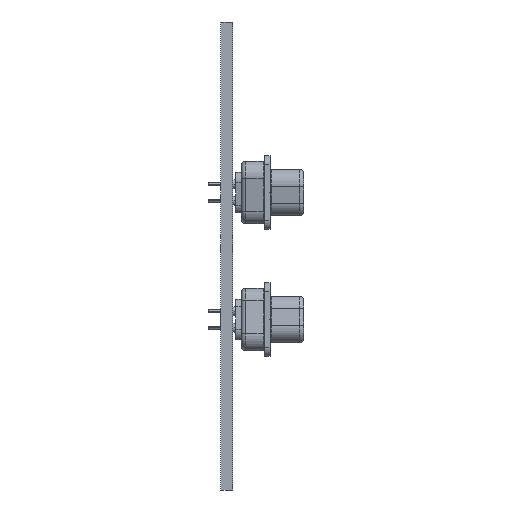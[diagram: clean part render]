
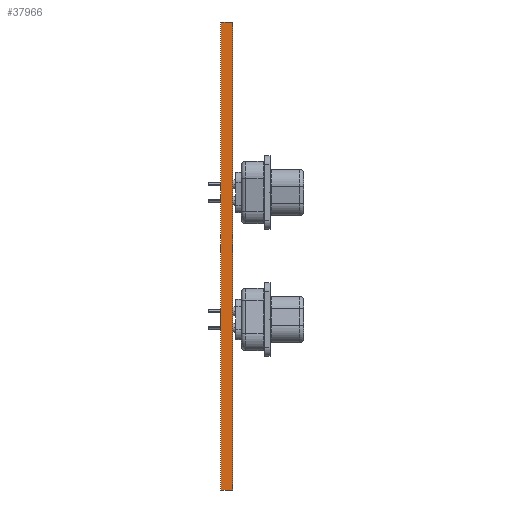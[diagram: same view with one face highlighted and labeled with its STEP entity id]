
A CAD part, left-side view. The second image highlights one B-rep face of the part: STEP entity #37966.
In plain terms, the highlighted planar face has unit normal (-1, 0, 0).
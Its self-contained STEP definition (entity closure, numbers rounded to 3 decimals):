
#2387=DIRECTION('',(0.,0.,1.));
#2388=VECTOR('',#2387,80.);
#2389=CARTESIAN_POINT('',(-150.,0.,-40.));
#2390=LINE('',#2389,#2388);
#2395=DIRECTION('',(0.,1.,0.));
#2396=VECTOR('',#2395,2.032);
#2397=CARTESIAN_POINT('',(-150.,0.,-40.));
#2398=LINE('',#2397,#2396);
#2411=DIRECTION('',(0.,-1.,0.));
#2412=VECTOR('',#2411,2.032);
#2413=CARTESIAN_POINT('',(-150.,2.032,40.));
#2414=LINE('',#2413,#2412);
#2419=DIRECTION('',(0.,0.,1.));
#2420=VECTOR('',#2419,80.);
#2421=CARTESIAN_POINT('',(-150.,2.032,-40.));
#2422=LINE('',#2421,#2420);
#28697=CARTESIAN_POINT('',(-150.,0.,-40.));
#28698=CARTESIAN_POINT('',(-150.,0.,40.));
#28699=VERTEX_POINT('',#28697);
#28700=VERTEX_POINT('',#28698);
#28753=CARTESIAN_POINT('',(-150.,2.032,-40.));
#28754=VERTEX_POINT('',#28753);
#28755=CARTESIAN_POINT('',(-150.,2.032,40.));
#28756=VERTEX_POINT('',#28755);
#37952=CARTESIAN_POINT('',(-150.,1.016,0.));
#37953=DIRECTION('',(1.,0.,0.));
#37954=DIRECTION('',(0.,0.,1.));
#37955=AXIS2_PLACEMENT_3D('',#37952,#37953,#37954);
#37956=PLANE('',#37955);
#37957=ORIENTED_EDGE('',*,*,#36530,.F.);
#37959=ORIENTED_EDGE('',*,*,#37958,.T.);
#37961=ORIENTED_EDGE('',*,*,#37960,.T.);
#37963=ORIENTED_EDGE('',*,*,#37962,.T.);
#37964=EDGE_LOOP('',(#37957,#37959,#37961,#37963));
#37965=FACE_OUTER_BOUND('',#37964,.F.);
#36530=EDGE_CURVE('',#28699,#28700,#2390,.T.);
#37958=EDGE_CURVE('',#28699,#28754,#2398,.T.);
#37960=EDGE_CURVE('',#28754,#28756,#2422,.T.);
#37962=EDGE_CURVE('',#28756,#28700,#2414,.T.);
#37966=ADVANCED_FACE('',(#37965),#37956,.F.);
